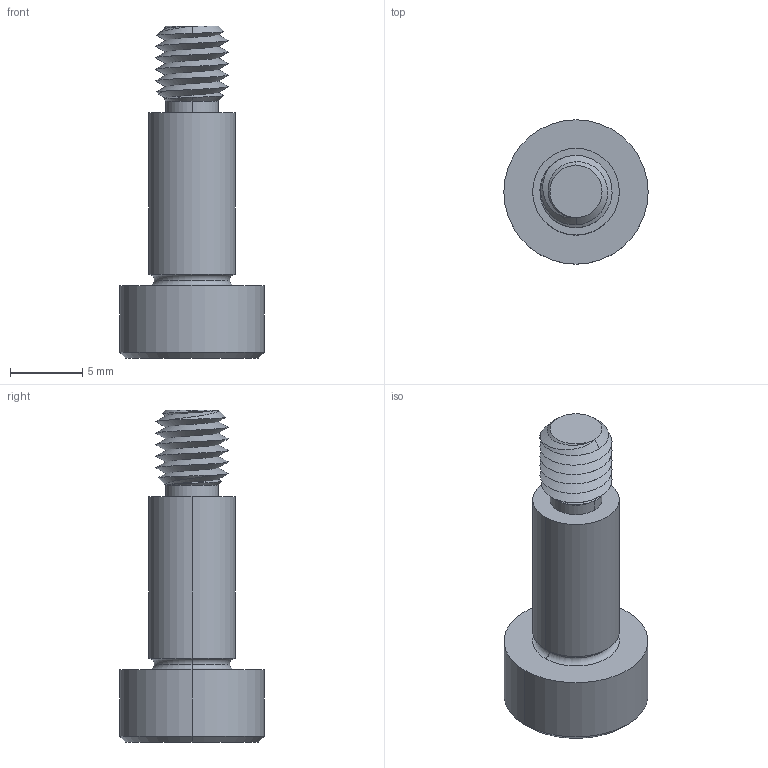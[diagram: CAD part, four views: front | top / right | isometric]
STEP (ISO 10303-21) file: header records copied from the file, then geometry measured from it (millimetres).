
FILE_DESCRIPTION (( 'STEP AP203' ), '1' );
FILE_NAME ('P0130.060-012-B2.step', '2021-11-09T21:23:49', ( '' ), ( '' ), 'SwSTEP 2.0', 'SolidWorks 2019', '' );
FILE_SCHEMA (( 'CONFIG_CONTROL_DESIGN' ));
Length unit declared in the file: millimetre
Products named in the file (1): P0130.060-012-B2
Bounding box: 10 x 10 x 23 mm (x, y, z)
Volume: 782.8 mm3; surface area: 713.7 mm2
Topology: 1 solids, 1 shells, 53 faces, 121 edges, 71 vertices
Faces by surface type: cylinder 17, plane 16, cone 14, torus 4, bspline 2
Entity records: 2367 total; most frequent: CARTESIAN_POINT 1186, ORIENTED_EDGE 238, DIRECTION 226, EDGE_CURVE 119, AXIS2_PLACEMENT_3D 92, VERTEX_POINT 71, EDGE_LOOP 56, ADVANCED_FACE 53
